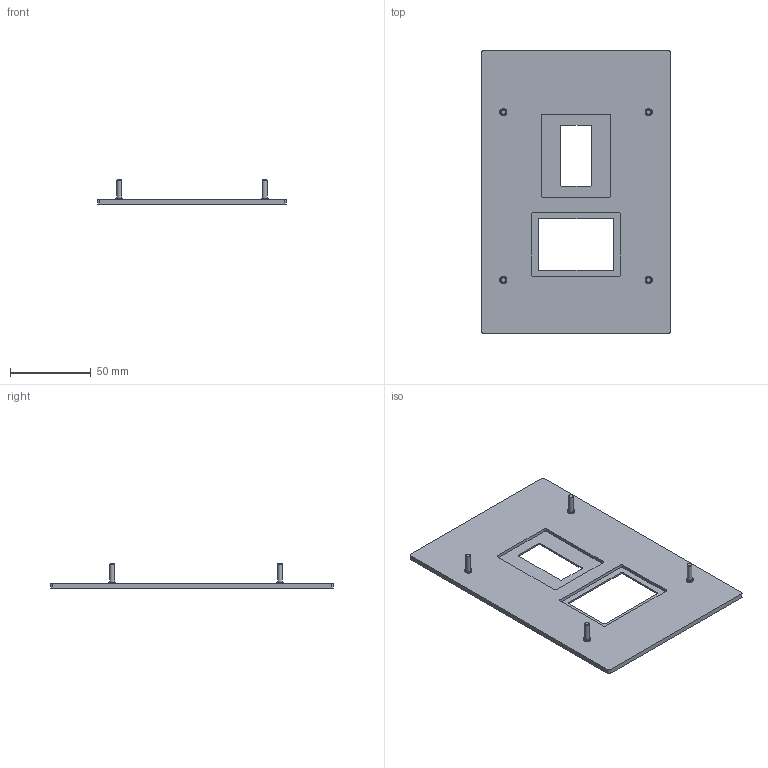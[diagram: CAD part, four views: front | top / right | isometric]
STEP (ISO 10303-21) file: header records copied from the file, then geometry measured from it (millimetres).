
FILE_DESCRIPTION(/* description */ (''),/* implementation_level */ '2;1');
FILE_NAME(/* name */ 'A1122E_Engineering Edition Front panel.stp',/* time_stamp */ '2024-05-21T12:00:02+02:00',/* author */ ('darwyr'),/* organization */ (''),/* preprocessor_version */ 'ST-DEVELOPER v19.2',/* originating_system */ 'Autodesk Inventor 2023',/* authorisation */ '');
FILE_SCHEMA (('AUTOMOTIVE_DESIGN { 1 0 10303 214 3 1 1 }'));
Length unit declared in the file: millimetre
Products named in the file (1): module A1122 front panel
Bounding box: 117 x 175 x 15 mm (x, y, z)
Volume: 50767.6 mm3; surface area: 39726.2 mm2
Topology: 1 solids, 1 shells, 64 faces, 156 edges, 104 vertices
Faces by surface type: plane 32, cylinder 28, cone 4
Full cylindrical faces by diameter (mm): 3 x4, 4.5 x4
Entity records: 2009 total; most frequent: DIRECTION 350, CARTESIAN_POINT 325, ORIENTED_EDGE 312, EDGE_CURVE 156, AXIS2_PLACEMENT_3D 129, VERTEX_POINT 104, LINE 92, VECTOR 92
